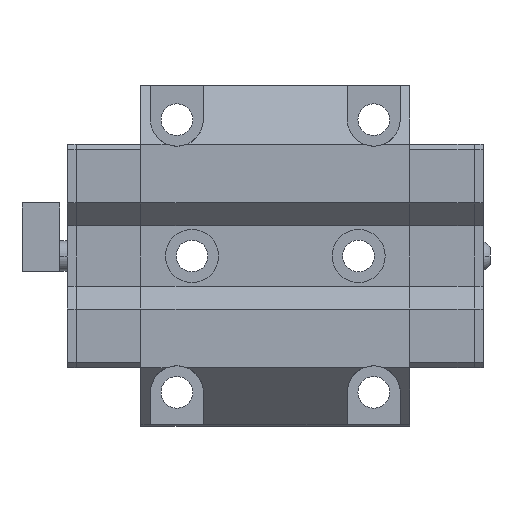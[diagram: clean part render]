
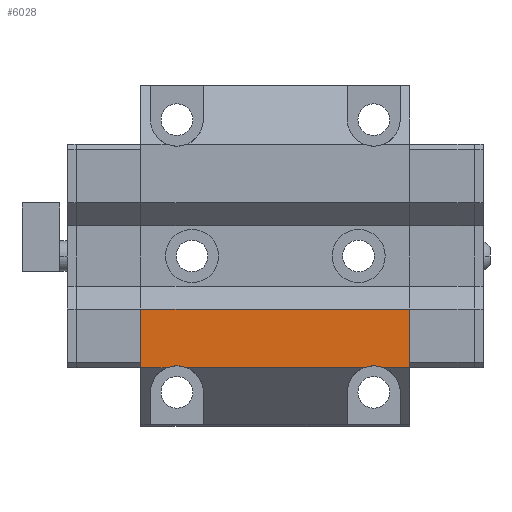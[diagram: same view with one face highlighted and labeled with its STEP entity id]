
A CAD part, front view. The second image highlights one B-rep face of the part: STEP entity #6028.
In plain terms, the highlighted planar face has unit normal (0, -1, 0).
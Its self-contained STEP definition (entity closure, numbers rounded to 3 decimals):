
#14 = CARTESIAN_POINT ( 'NONE',  ( -35.5, -22., -29.5 ) ) ;
#22 = EDGE_CURVE ( 'NONE', #5188, #6293, #8234, .T. ) ;
#34 = CARTESIAN_POINT ( 'NONE',  ( -26., -22., -36. ) ) ;
#551 = EDGE_CURVE ( 'NONE', #8172, #4870, #6607, .T. ) ;
#651 = VERTEX_POINT ( 'NONE', #7909 ) ;
#679 = EDGE_CURVE ( 'NONE', #8172, #8107, #7411, .T. ) ;
#692 = EDGE_CURVE ( 'NONE', #7787, #5999, #4094, .T. ) ;
#788 = CARTESIAN_POINT ( 'NONE',  ( -35.5, -22., 14. ) ) ;
#939 = PLANE ( 'NONE',  #2531 ) ;
#998 = CARTESIAN_POINT ( 'NONE',  ( 28.598, -22., -29.5 ) ) ;
#1055 = CARTESIAN_POINT ( 'NONE',  ( -26., -22., -36. ) ) ;
#1206 = AXIS2_PLACEMENT_3D ( 'NONE', #1055, #5243, #3142 ) ;
#1249 = CARTESIAN_POINT ( 'NONE',  ( 35.5, -22., -29.5 ) ) ;
#1408 = EDGE_CURVE ( 'NONE', #6293, #651, #8758, .T. ) ;
#1427 = DIRECTION ( 'NONE',  ( 0., 0., 1. ) ) ;
#1431 = ORIENTED_EDGE ( 'NONE', *, *, #1408, .F. ) ;
#1434 = CARTESIAN_POINT ( 'NONE',  ( 23.402, -22., -29.5 ) ) ;
#1653 = VECTOR ( 'NONE', #8697, 1000. ) ;
#1817 = CARTESIAN_POINT ( 'NONE',  ( -26., -22., -29. ) ) ;
#1937 = CARTESIAN_POINT ( 'NONE',  ( 35.5, -22., -29.5 ) ) ;
#2005 = ORIENTED_EDGE ( 'NONE', *, *, #4053, .F. ) ;
#2099 = CARTESIAN_POINT ( 'NONE',  ( 26., -22., -36. ) ) ;
#2237 = DIRECTION ( 'NONE',  ( 0., -1., 0. ) ) ;
#2259 = DIRECTION ( 'NONE',  ( 0., -1., 0. ) ) ;
#2433 = ORIENTED_EDGE ( 'NONE', *, *, #7712, .T. ) ;
#2531 = AXIS2_PLACEMENT_3D ( 'NONE', #7195, #3108, #4370 ) ;
#2793 = VECTOR ( 'NONE', #4591, 1000. ) ;
#3108 = DIRECTION ( 'NONE',  ( 0., -1., 0. ) ) ;
#3142 = DIRECTION ( 'NONE',  ( 0., 0., 1. ) ) ;
#3269 = CARTESIAN_POINT ( 'NONE',  ( 35.5, -22., -14. ) ) ;
#3450 = DIRECTION ( 'NONE',  ( -1., 0., 0. ) ) ;
#3562 = DIRECTION ( 'NONE',  ( 0., 0., 1. ) ) ;
#3632 = LINE ( 'NONE', #788, #4141 ) ;
#3657 = VERTEX_POINT ( 'NONE', #6109 ) ;
#3811 = EDGE_CURVE ( 'NONE', #8107, #5188, #8169, .T. ) ;
#4010 = VERTEX_POINT ( 'NONE', #14 ) ;
#4053 = EDGE_CURVE ( 'NONE', #5999, #4010, #4798, .T. ) ;
#4094 = CIRCLE ( 'NONE', #1206, 7. ) ;
#4141 = VECTOR ( 'NONE', #1427, 1000. ) ;
#4165 = ORIENTED_EDGE ( 'NONE', *, *, #692, .F. ) ;
#4226 = EDGE_CURVE ( 'NONE', #4010, #3657, #3632, .T. ) ;
#4268 = AXIS2_PLACEMENT_3D ( 'NONE', #34, #2259, #3562 ) ;
#4269 = CARTESIAN_POINT ( 'NONE',  ( 9.65, -22., -14. ) ) ;
#4273 = DIRECTION ( 'NONE',  ( 0.371, 0., 0.929 ) ) ;
#4370 = DIRECTION ( 'NONE',  ( 0., 0., -1. ) ) ;
#4374 = AXIS2_PLACEMENT_3D ( 'NONE', #2099, #2237, #6330 ) ;
#4440 = VECTOR ( 'NONE', #6961, 1000. ) ;
#4591 = DIRECTION ( 'NONE',  ( 0., 0., 1. ) ) ;
#4798 = LINE ( 'NONE', #6683, #4856 ) ;
#4856 = VECTOR ( 'NONE', #3450, 1000. ) ;
#4870 = VERTEX_POINT ( 'NONE', #3269 ) ;
#4871 = AXIS2_PLACEMENT_3D ( 'NONE', #8360, #7686, #4273 ) ;
#4932 = ORIENTED_EDGE ( 'NONE', *, *, #4226, .F. ) ;
#5188 = VERTEX_POINT ( 'NONE', #7669 ) ;
#5243 = DIRECTION ( 'NONE',  ( 0., -1., 0. ) ) ;
#5421 = VECTOR ( 'NONE', #8796, 1000. ) ;
#5835 = CIRCLE ( 'NONE', #4268, 7. ) ;
#5890 = EDGE_CURVE ( 'NONE', #651, #7787, #5835, .T. ) ;
#5999 = VERTEX_POINT ( 'NONE', #7868 ) ;
#6028 = ADVANCED_FACE ( 'NONE', ( #6518 ), #939, .T. ) ;
#6066 = CARTESIAN_POINT ( 'NONE',  ( 23.402, -22., -29.5 ) ) ;
#6109 = CARTESIAN_POINT ( 'NONE',  ( -35.5, -22., -14. ) ) ;
#6293 = VERTEX_POINT ( 'NONE', #1434 ) ;
#6330 = DIRECTION ( 'NONE',  ( 0.371, 0., 0.929 ) ) ;
#6405 = EDGE_LOOP ( 'NONE', ( #6455, #2433, #4932, #2005, #4165, #8414, #1431, #7079, #8765, #6417 ) ) ;
#6417 = ORIENTED_EDGE ( 'NONE', *, *, #679, .F. ) ;
#6455 = ORIENTED_EDGE ( 'NONE', *, *, #551, .T. ) ;
#6518 = FACE_OUTER_BOUND ( 'NONE', #6405, .T. ) ;
#6607 = LINE ( 'NONE', #6692, #2793 ) ;
#6683 = CARTESIAN_POINT ( 'NONE',  ( -28.598, -22., -29.5 ) ) ;
#6692 = CARTESIAN_POINT ( 'NONE',  ( 35.5, -22., -29.5 ) ) ;
#6961 = DIRECTION ( 'NONE',  ( -1., 0., 0. ) ) ;
#7079 = ORIENTED_EDGE ( 'NONE', *, *, #22, .F. ) ;
#7195 = CARTESIAN_POINT ( 'NONE',  ( -35.5, -22., 28. ) ) ;
#7411 = LINE ( 'NONE', #1249, #1653 ) ;
#7669 = CARTESIAN_POINT ( 'NONE',  ( 26., -22., -29. ) ) ;
#7686 = DIRECTION ( 'NONE',  ( 0., -1., 0. ) ) ;
#7712 = EDGE_CURVE ( 'NONE', #4870, #3657, #8309, .T. ) ;
#7787 = VERTEX_POINT ( 'NONE', #1817 ) ;
#7868 = CARTESIAN_POINT ( 'NONE',  ( -28.598, -22., -29.5 ) ) ;
#7909 = CARTESIAN_POINT ( 'NONE',  ( -23.402, -22., -29.5 ) ) ;
#8107 = VERTEX_POINT ( 'NONE', #998 ) ;
#8169 = CIRCLE ( 'NONE', #4871, 7. ) ;
#8172 = VERTEX_POINT ( 'NONE', #1937 ) ;
#8234 = CIRCLE ( 'NONE', #4374, 7. ) ;
#8309 = LINE ( 'NONE', #4269, #4440 ) ;
#8360 = CARTESIAN_POINT ( 'NONE',  ( 26., -22., -36. ) ) ;
#8414 = ORIENTED_EDGE ( 'NONE', *, *, #5890, .F. ) ;
#8697 = DIRECTION ( 'NONE',  ( -1., 0., 0. ) ) ;
#8758 = LINE ( 'NONE', #6066, #5421 ) ;
#8765 = ORIENTED_EDGE ( 'NONE', *, *, #3811, .F. ) ;
#8796 = DIRECTION ( 'NONE',  ( -1., 0., 0. ) ) ;
